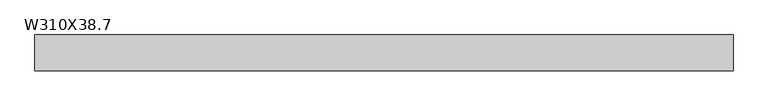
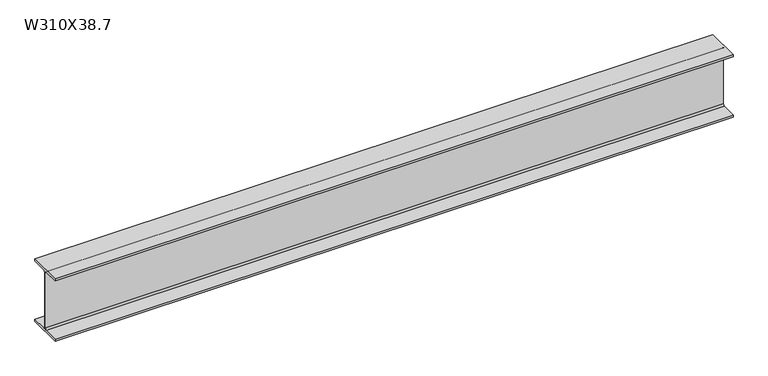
"""IFC4 building model written with IfcOpenShell, lengths in millimetres: beam geometry, M_W Формы : W310X38.7."""

from ifc_helpers import new_model, si_unit, point, frame, frame_2d, origin, place, context, project, spatial, polyline, circle_curve, trimmed, segment, composite_curve, outline, extrude, source, transform, mapped, element, save


def w310x38_7_81d6efd2(model_context):
    return source(origin(), model_context, "Body", "SweptSolid", [
        extrude(outline(composite_curve([segment(polyline([(82.5, -145.35), (82.5, -155.0), (-82.5, -155.0), (-82.5, -145.35), (-10.57, -145.35)]), True, "CONTINUOUS"), segment(trimmed(circle_curve(frame_2d((-10.57, -137.7)), 7.65), [point((-10.57, -145.35))], [point((-2.92, -137.7))], True, "CARTESIAN"), True, "CONTINUOUS"), segment(polyline([(-2.92, -137.7), (-2.92, 137.7)]), True, "CONTINUOUS"), segment(trimmed(circle_curve(frame_2d((-10.57, 137.7)), 7.65), [point((-2.92, 137.7))], [point((-10.57, 145.35))], True, "CARTESIAN"), True, "CONTINUOUS"), segment(polyline([(-10.57, 145.35), (-82.5, 145.35), (-82.5, 155.0), (82.5, 155.0), (82.5, 145.35), (10.57, 145.35)]), True, "CONTINUOUS"), segment(trimmed(circle_curve(frame_2d((10.57, 137.7)), 7.65), [point((10.57, 145.35))], [point((2.92, 137.7))], True, "CARTESIAN"), True, "CONTINUOUS"), segment(polyline([(2.92, 137.7), (2.92, -137.7)]), True, "CONTINUOUS"), segment(trimmed(circle_curve(frame_2d((10.57, -137.7)), 7.65), [point((2.92, -137.7))], [point((10.57, -145.35))], True, "CARTESIAN"), True, "CONTINUOUS"), segment(polyline([(10.57, -145.35), (82.5, -145.35)]), True, "CONTINUOUS")], self_intersect=False)), frame((-1604.0416195, 0.0, 0.0), z_axis=(1.0, 0.0, 0.0), x_axis=(0.0, 1.0, 0.0)), (0.0, 0.0, 1.0), 3202.083239),
    ])


if __name__ == "__main__":
    model = new_model("IFC4")
    model_context = context("Model", 3, world=origin())
    ifc_project = project(units=[si_unit("LENGTHUNIT", "METRE", prefix="MILLI")], contexts=[model_context])
    site = spatial("IfcSite", under=ifc_project)
    building = spatial("IfcBuilding", under=site)
    placement = place(None, origin())
    w310x38_7_shape = w310x38_7_81d6efd2(model_context)
    element("IfcBeam", 1, ObjectType="M_W Формы : W310X38.7", at=placement, inside=building, context=model_context, shape_type="MappedRepresentation", body=[
        mapped(w310x38_7_shape, transform((0.0, 0.0, 0.0), x_axis=(1.0, 0.0, 0.0), y_axis=(0.0, 1.0, 0.0), z_axis=(0.0, 0.0, 1.0))),
    ])
    save(model, "model.ifc")
